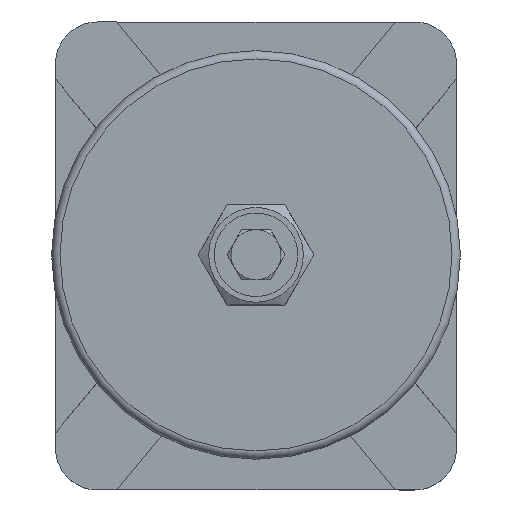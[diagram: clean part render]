
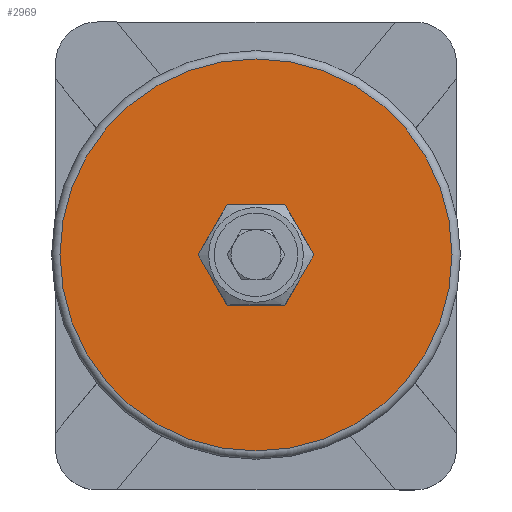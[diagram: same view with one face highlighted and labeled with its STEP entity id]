
A CAD part, top view. The second image highlights one B-rep face of the part: STEP entity #2969.
In plain terms, the highlighted planar face has unit normal (0, 0, 1).
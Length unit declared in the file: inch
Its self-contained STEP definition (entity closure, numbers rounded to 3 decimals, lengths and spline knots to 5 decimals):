
#140=FACE_BOUND('',#513,.T.);
#197=CIRCLE('',#3174,2.93218);
#199=CIRCLE('',#3178,0.4375);
#328=FACE_OUTER_BOUND('',#512,.T.);
#512=EDGE_LOOP('',(#2046));
#513=EDGE_LOOP('',(#2047));
#1219=VERTEX_POINT('',#4396);
#1221=VERTEX_POINT('',#4402);
#1534=EDGE_CURVE('',#1219,#1219,#197,.T.);
#1536=EDGE_CURVE('',#1221,#1221,#199,.T.);
#2046=ORIENTED_EDGE('',*,*,#1534,.F.);
#2047=ORIENTED_EDGE('',*,*,#1536,.F.);
#2660=PLANE('',#3177);
#2969=ADVANCED_FACE('',(#328,#140),#2660,.T.);
#3174=AXIS2_PLACEMENT_3D('',#4397,#3571,#3572);
#3177=AXIS2_PLACEMENT_3D('',#4401,#3577,#3578);
#3178=AXIS2_PLACEMENT_3D('',#4403,#3579,#3580);
#3571=DIRECTION('center_axis',(0.,0.,
-1.));
#3572=DIRECTION('ref_axis',(1.,0.,0.));
#3577=DIRECTION('center_axis',(0.,0.,
1.));
#3578=DIRECTION('ref_axis',(-1.,0.,0.));
#3579=DIRECTION('center_axis',(0.,0.,
1.));
#3580=DIRECTION('ref_axis',(-1.,0.,0.));
#4396=CARTESIAN_POINT('',(-2.93218,0.,9.3125));
#4397=CARTESIAN_POINT('Origin',(0.,0.,
9.3125));
#4401=CARTESIAN_POINT('Origin',(-1.75,0.,9.3125));
#4402=CARTESIAN_POINT('',(-0.4375,0.,9.3125));
#4403=CARTESIAN_POINT('Origin',(0.,0.,
9.3125));
